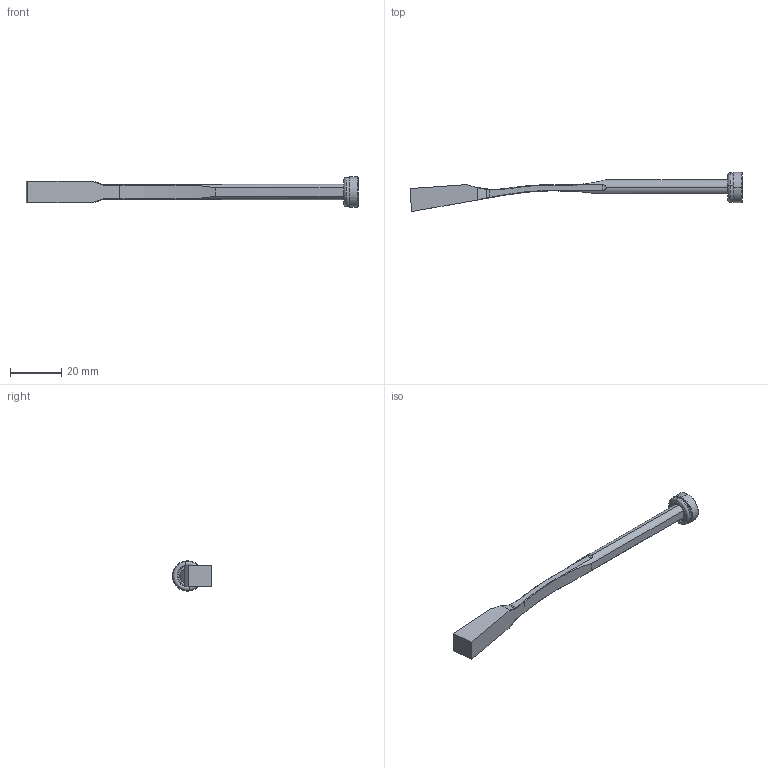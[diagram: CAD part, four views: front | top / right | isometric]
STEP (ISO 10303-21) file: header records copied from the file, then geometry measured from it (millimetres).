
FILE_DESCRIPTION (( 'STEP AP214' ), '1' );
FILE_NAME ('PW060822.STEP', '2020-02-10T08:40:09', ( '' ), ( '' ), 'SwSTEP 2.0', 'SolidWorks 2018', '' );
FILE_SCHEMA (( 'AUTOMOTIVE_DESIGN' ));
Length unit declared in the file: millimetre
Products named in the file (5): 9FP1205M4; PW060822; 3JT7.5X2X11.5; 9PW060822; 1DIN7991416_DIN 7991 - M4 x 16 --- 16C
Assembly tree (4 placements, depth 2):
  PW060822
    9PW060822
    9FP1205M4
    1DIN7991416_DIN 7991 - M4 x 16 --- 16C
    3JT7.5X2X11.5
Bounding box: 129.5 x 15.28 x 11.8 mm (x, y, z)
Volume: 4084.5 mm3; surface area: 3976.4 mm2
Topology: 4 solids, 4 shells, 95 faces, 216 edges, 126 vertices
Faces by surface type: plane 32, cylinder 23, cone 20, torus 14, bspline 6
Entity records: 3008 total; most frequent: CARTESIAN_POINT 635, DIRECTION 456, ORIENTED_EDGE 424, EDGE_CURVE 212, AXIS2_PLACEMENT_3D 181, VERTEX_POINT 126, EDGE_LOOP 100, FACE_OUTER_BOUND 95
